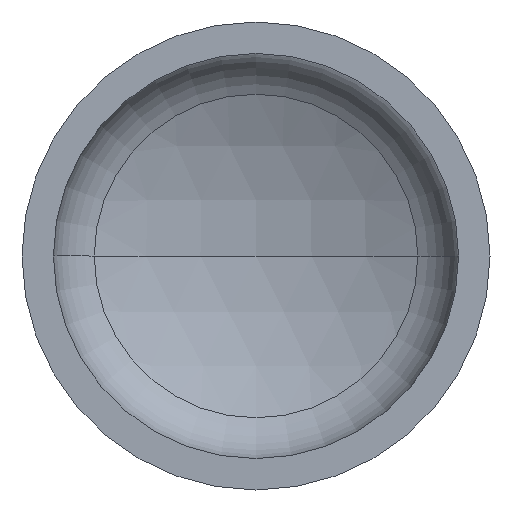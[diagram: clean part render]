
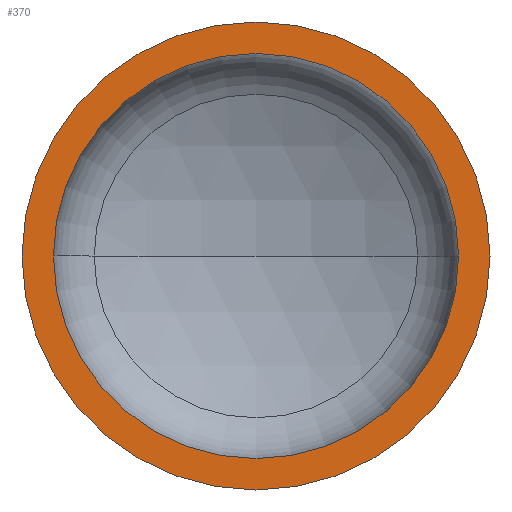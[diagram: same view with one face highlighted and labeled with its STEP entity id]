
A CAD part, front view. The second image highlights one B-rep face of the part: STEP entity #370.
In plain terms, the highlighted planar face has unit normal (0, -1, 0).
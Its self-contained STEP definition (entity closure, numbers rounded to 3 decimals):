
#2 = EDGE_LOOP ( 'NONE', ( #305, #55 ) ) ;
#28 = AXIS2_PLACEMENT_3D ( 'NONE', #360, #123, #268 ) ;
#38 = VERTEX_POINT ( 'NONE', #376 ) ;
#55 = ORIENTED_EDGE ( 'NONE', *, *, #91, .T. ) ;
#63 = AXIS2_PLACEMENT_3D ( 'NONE', #379, #310, #307 ) ;
#64 = AXIS2_PLACEMENT_3D ( 'NONE', #363, #359, #358 ) ;
#70 = EDGE_LOOP ( 'NONE', ( #75, #142 ) ) ;
#75 = ORIENTED_EDGE ( 'NONE', *, *, #92, .F. ) ;
#76 = AXIS2_PLACEMENT_3D ( 'NONE', #222, #238, #237 ) ;
#77 = EDGE_CURVE ( 'NONE', #109, #38, #296, .T. ) ;
#78 = AXIS2_PLACEMENT_3D ( 'NONE', #269, #93, #119 ) ;
#91 = EDGE_CURVE ( 'NONE', #38, #109, #289, .T. ) ;
#92 = EDGE_CURVE ( 'NONE', #121, #128, #157, .T. ) ;
#93 = DIRECTION ( 'NONE',  ( 0., 1., 0. ) ) ;
#109 = VERTEX_POINT ( 'NONE', #315 ) ;
#119 = DIRECTION ( 'NONE',  ( -1., 0., 0. ) ) ;
#121 = VERTEX_POINT ( 'NONE', #193 ) ;
#123 = DIRECTION ( 'NONE',  ( 0., -1., 0. ) ) ;
#128 = VERTEX_POINT ( 'NONE', #196 ) ;
#142 = ORIENTED_EDGE ( 'NONE', *, *, #348, .F. ) ;
#157 = CIRCLE ( 'NONE', #63, 606. ) ;
#167 = FACE_BOUND ( 'NONE', #70, .T. ) ;
#193 = CARTESIAN_POINT ( 'NONE',  ( 606., 0., 0. ) ) ;
#196 = CARTESIAN_POINT ( 'NONE',  ( -606., 0., 0. ) ) ;
#222 = CARTESIAN_POINT ( 'NONE',  ( 0., 0., 0. ) ) ;
#237 = DIRECTION ( 'NONE',  ( 1., 0., 0. ) ) ;
#238 = DIRECTION ( 'NONE',  ( 0., -1., 0. ) ) ;
#255 = CIRCLE ( 'NONE', #28, 606. ) ;
#268 = DIRECTION ( 'NONE',  ( 1., 0., 0. ) ) ;
#269 = CARTESIAN_POINT ( 'NONE',  ( -700., 0., 0. ) ) ;
#289 = CIRCLE ( 'NONE', #64, 700. ) ;
#296 = CIRCLE ( 'NONE', #76, 700. ) ;
#305 = ORIENTED_EDGE ( 'NONE', *, *, #77, .T. ) ;
#307 = DIRECTION ( 'NONE',  ( 1., 0., 0. ) ) ;
#310 = DIRECTION ( 'NONE',  ( 0., -1., 0. ) ) ;
#315 = CARTESIAN_POINT ( 'NONE',  ( 700., 0., 0. ) ) ;
#348 = EDGE_CURVE ( 'NONE', #128, #121, #255, .T. ) ;
#358 = DIRECTION ( 'NONE',  ( 1., 0., 0. ) ) ;
#359 = DIRECTION ( 'NONE',  ( 0., -1., 0. ) ) ;
#360 = CARTESIAN_POINT ( 'NONE',  ( 0., 0., 0. ) ) ;
#363 = CARTESIAN_POINT ( 'NONE',  ( 0., 0., 0. ) ) ;
#370 = ADVANCED_FACE ( 'NONE', ( #167, #407 ), #399, .F. ) ;
#376 = CARTESIAN_POINT ( 'NONE',  ( -700., 0., 0. ) ) ;
#379 = CARTESIAN_POINT ( 'NONE',  ( 0., 0., 0. ) ) ;
#399 = PLANE ( 'NONE',  #78 ) ;
#407 = FACE_OUTER_BOUND ( 'NONE', #2, .T. ) ;
